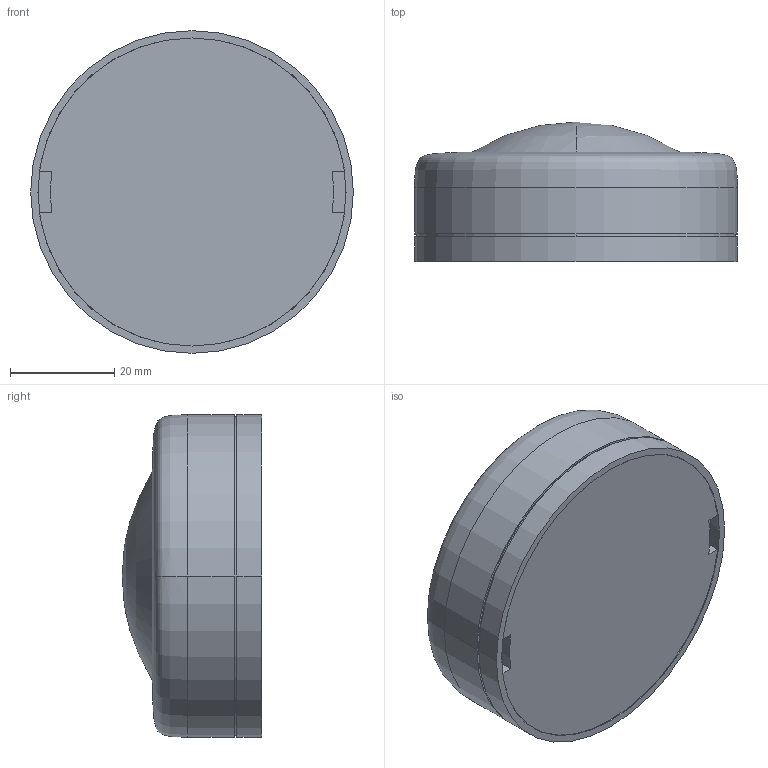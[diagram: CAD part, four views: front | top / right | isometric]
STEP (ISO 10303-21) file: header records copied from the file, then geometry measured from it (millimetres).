
FILE_DESCRIPTION((''),'2;1');
FILE_NAME('000','2024-06-27T12:20:28',('qinghui.yi'),(''),'CREO PARAMETRIC BY PTC INC, 2019164','CREO PARAMETRIC BY PTC INC, 2019164','');
FILE_SCHEMA(('CONFIG_CONTROL_DESIGN','SHAPE_APPEARANCE_LAYERS_GROUPS'));
Length unit declared in the file: millimetre
Products named in the file (1): 000
Bounding box: 62 x 26.8 x 62 mm (x, y, z)
Volume: 65652.4 mm3; surface area: 10160.1 mm2
Topology: 1 solids, 1 shells, 24 faces, 61 edges, 43 vertices
Faces by surface type: plane 10, cylinder 10, revolution 2, sphere 2
Entity records: 1159 total; most frequent: COLOUR_RGB 312, CARTESIAN_POINT 183, DIRECTION 135, ORIENTED_EDGE 112, EDGE_CURVE 56, AXIS2_PLACEMENT_3D 53, VERTEX_POINT 37, CIRCLE 30
